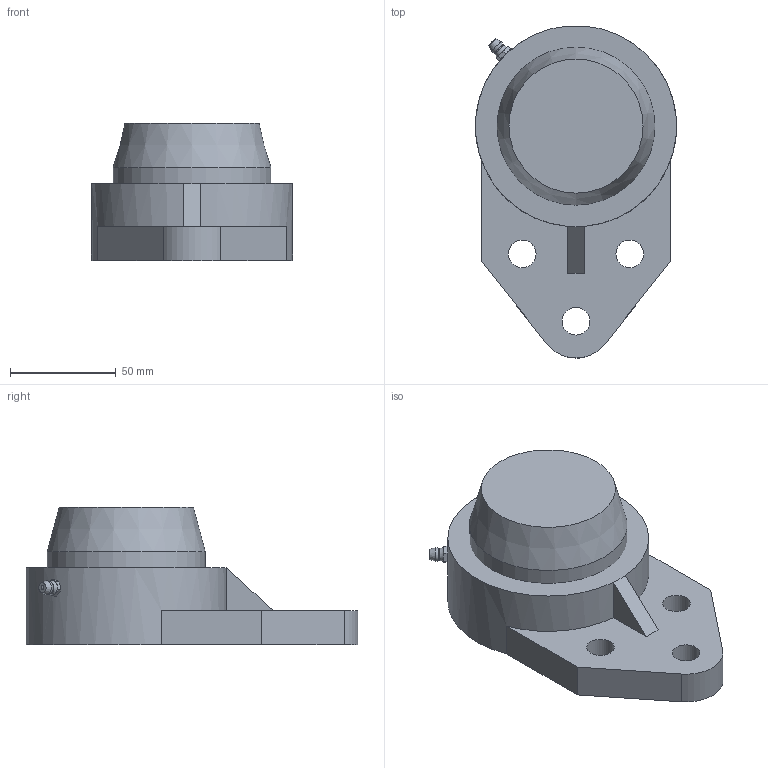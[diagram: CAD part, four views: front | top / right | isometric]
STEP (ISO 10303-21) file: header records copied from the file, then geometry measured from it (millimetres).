
FILE_DESCRIPTION(/* description */ (''),/* implementation_level */ '2;1');
FILE_NAME(/* name */ 'C:\Users\UGijyutu_200702\Desktop\77.プラスチックハウジング\MBFBL200V\MBFBL200VE\MBFBL207VE.stp',/* time_stamp */ '2023-05-08T16:21:34+09:00',/* author */ ('UGijyutu_200702'),/* organization */ (''),/* preprocessor_version */ 'ST-DEVELOPER v18',/* originating_system */ 'Autodesk Inventor 2020',/* authorisation */ '');
FILE_SCHEMA (('AUTOMOTIVE_DESIGN { 1 0 10303 214 3 1 1 }'));
Length unit declared in the file: millimetre
Products named in the file (5): MBFBL207VE; FBL207; MB7 V; 1/4-28UNF-2A; 207E
Assembly tree (4 placements, depth 2):
  MBFBL207VE
    FBL207
    MB7 V
    1/4-28UNF-2A
    207E
Bounding box: 94.98 x 156.78 x 65.1 mm (x, y, z)
Volume: 258477.9 mm3; surface area: 75188.8 mm2
Topology: 4 solids, 4 shells, 91 faces, 222 edges, 152 vertices
Faces by surface type: plane 47, cylinder 21, cone 17, sphere 4, torus 2
Full cylindrical faces by diameter (mm): 3.2 x1, 4.978 x1, 6 x2, 6.35 x1, 13.1 x3, 35 x1, 48 x1, 70.6 x1, 74 x2, 74.6 x1, 82 x1
Entity records: 3161 total; most frequent: CARTESIAN_POINT 728, DIRECTION 480, ORIENTED_EDGE 442, EDGE_CURVE 221, AXIS2_PLACEMENT_3D 197, VERTEX_POINT 152, EDGE_LOOP 117, CIRCLE 97
